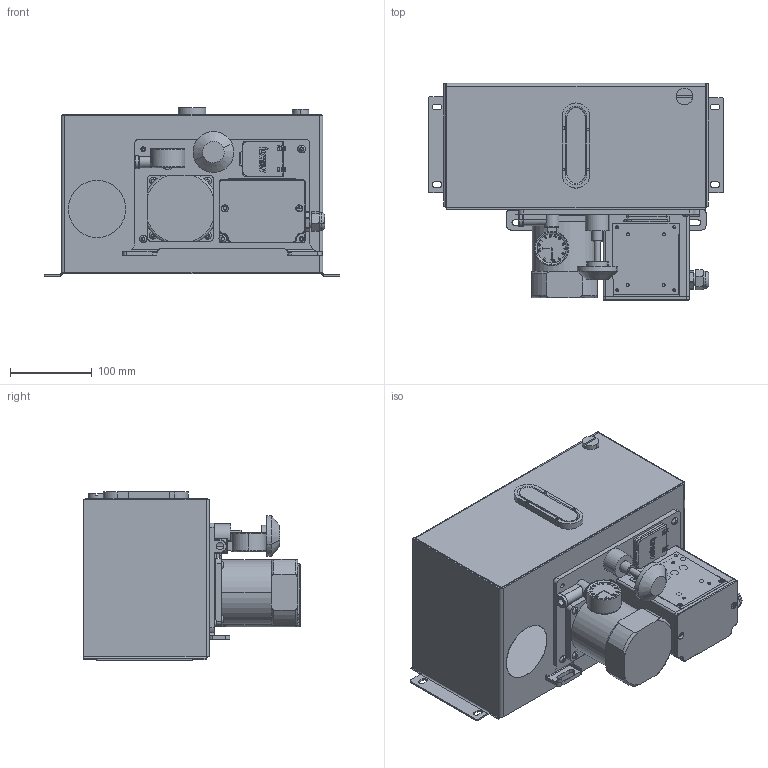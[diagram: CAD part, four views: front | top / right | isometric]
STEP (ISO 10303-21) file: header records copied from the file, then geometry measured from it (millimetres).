
FILE_DESCRIPTION (( 'STEP AP203' ), '1' );
FILE_NAME ('AMG不带控制抵坑式8L.STEP', '2020-04-13T07:36:59', ( '个人用户' ), ( '微软中国' ), 'SwSTEP 2.0', 'SolidWorks 2018', '' );
FILE_SCHEMA (( 'CONFIG_CONTROL_DESIGN' ));
Length unit declared in the file: millimetre
Products named in the file (1): AMG祥湍諷秶萋諧宒8L
Bounding box: 362 x 265.5 x 206 mm (x, y, z)
Surface area: 414209.5 mm2 (no closed solid volume)
Topology: 0 solids, 42 shells, 538 faces, 2095 edges, 1587 vertices
Faces by surface type: plane 271, cylinder 169, cone 37, bspline 27, torus 20, sphere 14
Entity records: 27719 total; most frequent: CARTESIAN_POINT 10385, DIRECTION 3549, ORIENTED_EDGE 3111, EDGE_CURVE 2095, VERTEX_POINT 1587, LINE 1229, VECTOR 1229, AXIS2_PLACEMENT_3D 1160
